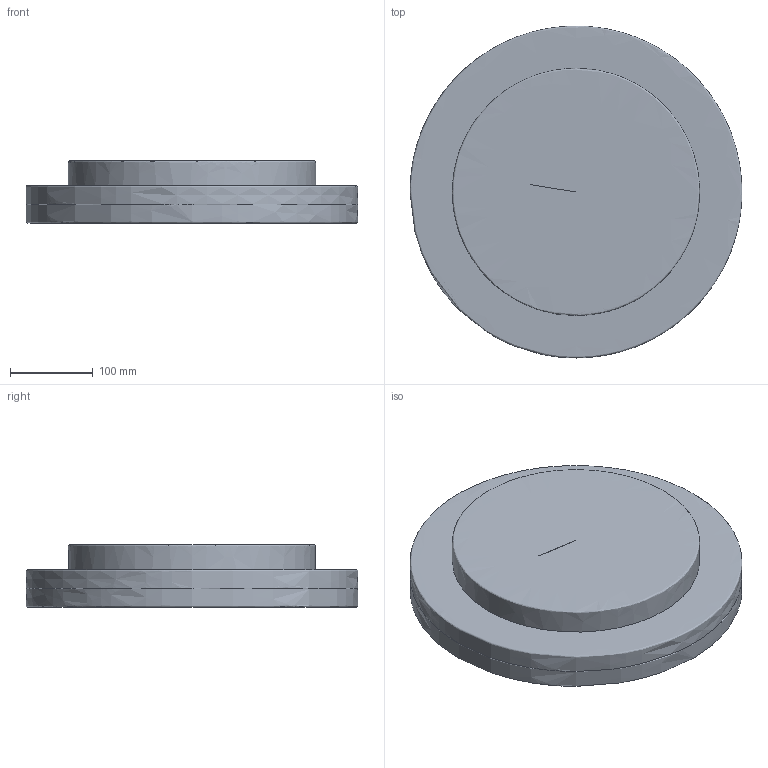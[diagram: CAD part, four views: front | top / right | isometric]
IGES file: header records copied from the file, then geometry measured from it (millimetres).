
Global section: file name: C:\Users\EQUIPO\Desktop\angus-3447-40-led (IGES).igs; native system: Rhinoceros ( Oct  8 2013 ); preprocessor: Trout Lake IGES 012 Oct  8 2013; date: 190128.191531; units: millimetre
Bounding box: 400 x 400 x 75 mm (x, y, z)
Surface area: 731148.2 mm2 (no closed solid volume)
Topology: 0 solids, 0 shells, 4 faces, 12 edges, 8 vertices
Faces by surface type: bspline 4
